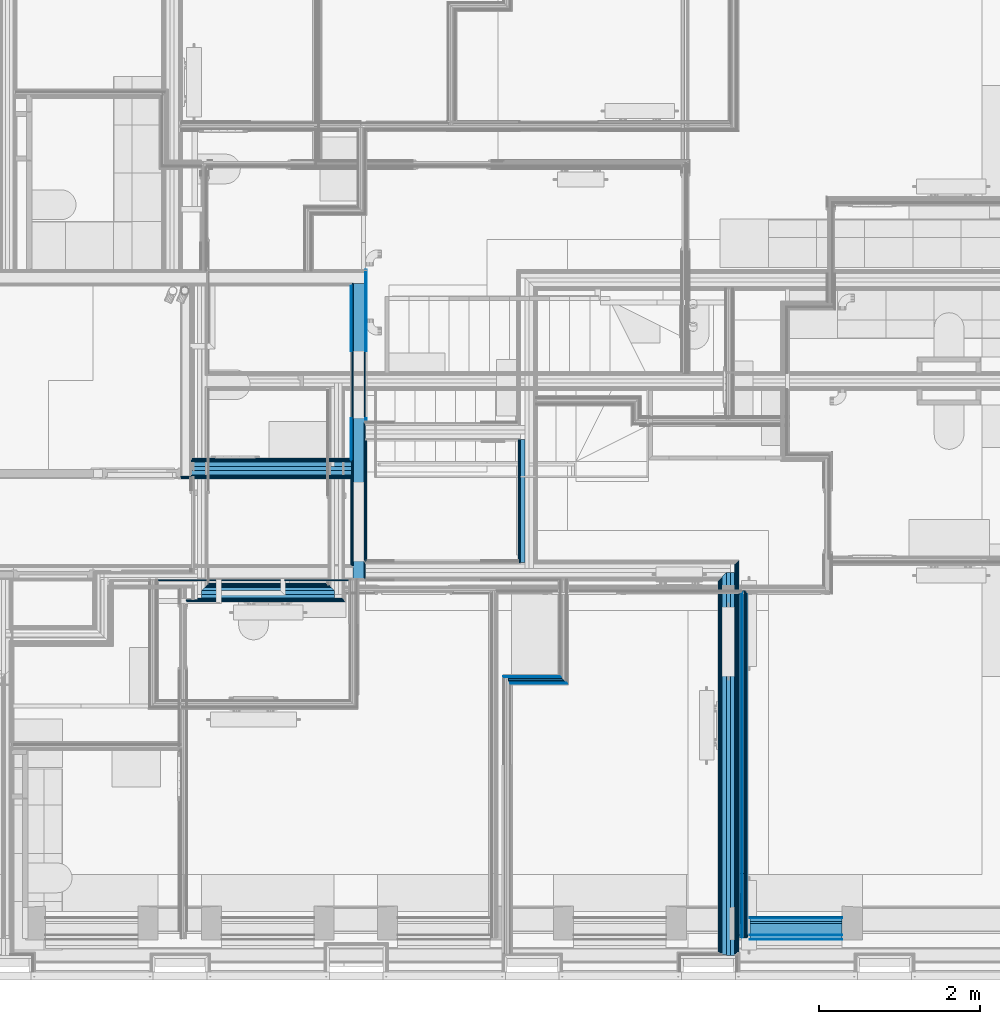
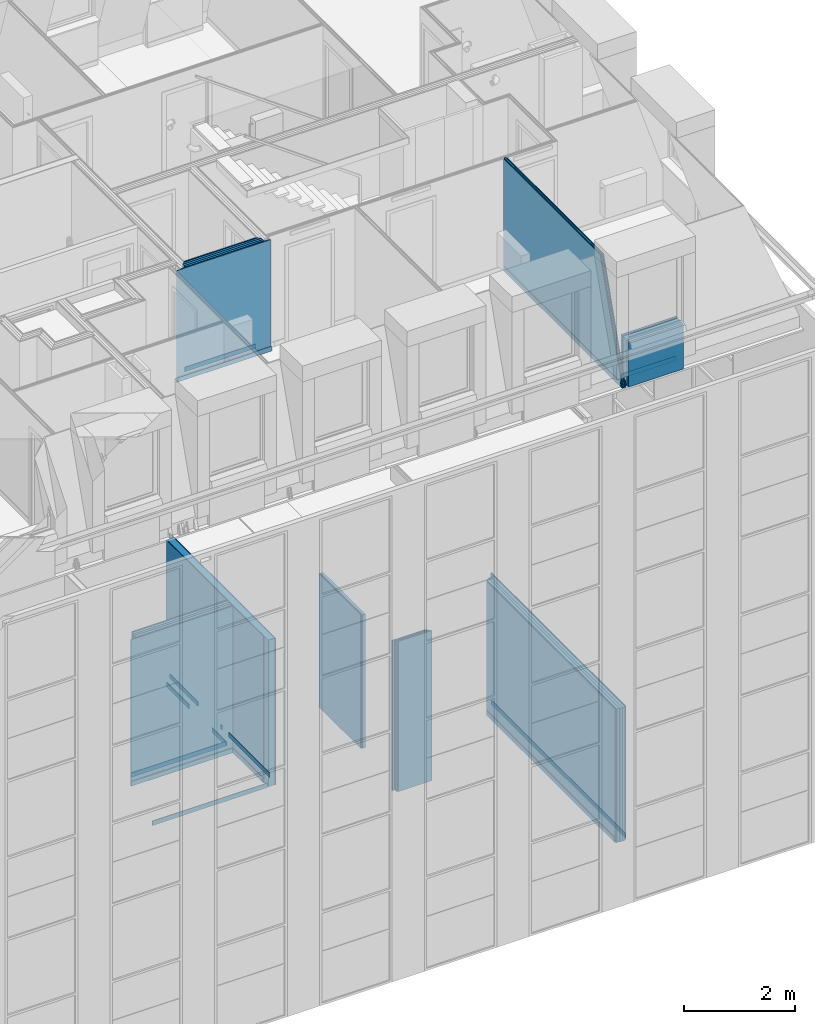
# One storey, part 37 of 169: 61 building element parts, 1 opening, 9 elements without a shape of their own.
"""IFC2X3 building model written with IfcOpenShell, lengths in metres."""

from ifc_helpers import new_model, entity, si_unit, converted_unit, derived_unit, money_unit, direction, frame, frame_2d, origin_with_axes, place, context, subcontext, project, spatial, polyline, rectangle, outline, extrude, clip, halfspace, material, type_object, element, aggregate, save


model = new_model("IFC2X3")

# Units and contexts
model_context = context("Model", 3, precision=1e-05, world=origin_with_axes(), true_north=direction((0.0, 1.0)))
body_context = subcontext(model_context, "Body", "Model", "MODEL_VIEW", scale=1.0)
ifc_project = project(units=[si_unit("LENGTHUNIT", "METRE"), si_unit("AREAUNIT", "SQUARE_METRE"), si_unit("VOLUMEUNIT", "CUBIC_METRE"), si_unit("ABSORBEDDOSEUNIT", "GRAY"), si_unit("AMOUNTOFSUBSTANCEUNIT", "MOLE"), si_unit("DOSEEQUIVALENTUNIT", "SIEVERT"), si_unit("ELECTRICCAPACITANCEUNIT", "FARAD"), si_unit("ELECTRICCHARGEUNIT", "COULOMB"), si_unit("ELECTRICCONDUCTANCEUNIT", "SIEMENS"), si_unit("ELECTRICCURRENTUNIT", "AMPERE"), si_unit("ELECTRICRESISTANCEUNIT", "OHM"), si_unit("ELECTRICVOLTAGEUNIT", "VOLT"), si_unit("ENERGYUNIT", "JOULE"), si_unit("FORCEUNIT", "NEWTON"), si_unit("FREQUENCYUNIT", "HERTZ"), si_unit("ILLUMINANCEUNIT", "LUX"), si_unit("INDUCTANCEUNIT", "HENRY"), si_unit("LUMINOUSFLUXUNIT", "LUMEN"), si_unit("LUMINOUSINTENSITYUNIT", "CANDELA"), si_unit("MAGNETICFLUXDENSITYUNIT", "TESLA"), si_unit("MAGNETICFLUXUNIT", "WEBER"), si_unit("MASSUNIT", "GRAM"), converted_unit("PLANEANGLEUNIT", "degree", entity("IfcReal", 0.0174532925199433), si_unit("PLANEANGLEUNIT", "RADIAN"), dimensions=[0, 0, 0, 0, 0, 0, 0]), si_unit("POWERUNIT", "WATT"), si_unit("PRESSUREUNIT", "PASCAL"), si_unit("RADIOACTIVITYUNIT", "BECQUEREL"), si_unit("SOLIDANGLEUNIT", "STERADIAN"), si_unit("THERMODYNAMICTEMPERATUREUNIT", "KELVIN"), si_unit("TIMEUNIT", "SECOND"), derived_unit("ACCELERATIONUNIT", [(si_unit("LENGTHUNIT", "METRE"), 1), (si_unit("TIMEUNIT", "SECOND"), -2)]), derived_unit("ANGULARVELOCITYUNIT", [(converted_unit("PLANEANGLEUNIT", "degree", entity("IfcReal", 0.0174532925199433), si_unit("PLANEANGLEUNIT", "RADIAN"), dimensions=[0, 0, 0, 0, 0, 0, 0]), 1), (si_unit("TIMEUNIT", "SECOND"), -1)]), derived_unit("CURVATUREUNIT", [(converted_unit("PLANEANGLEUNIT", "degree", entity("IfcReal", 0.0174532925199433), si_unit("PLANEANGLEUNIT", "RADIAN"), dimensions=[0, 0, 0, 0, 0, 0, 0]), 1), (si_unit("LENGTHUNIT", "METRE"), -1)]), derived_unit("DYNAMICVISCOSITYUNIT", [(si_unit("PRESSUREUNIT", "PASCAL"), 1), (si_unit("TIMEUNIT", "SECOND"), 1)]), derived_unit("HEATFLUXDENSITYUNIT", [(si_unit("POWERUNIT", "WATT"), 1), (si_unit("LENGTHUNIT", "METRE"), -2)]), derived_unit("HEATINGVALUEUNIT", [(si_unit("ENERGYUNIT", "JOULE"), 1), (si_unit("MASSUNIT", "GRAM"), -1)]), derived_unit("INTEGERCOUNTRATEUNIT", [(si_unit("TIMEUNIT", "SECOND"), -1)]), derived_unit("IONCONCENTRATIONUNIT", [(si_unit("MASSUNIT", "GRAM"), 1), (si_unit("VOLUMEUNIT", "CUBIC_METRE"), -1)]), derived_unit("ISOTHERMALMOISTURECAPACITYUNIT", [(si_unit("VOLUMEUNIT", "CUBIC_METRE"), 1), (si_unit("MASSUNIT", "GRAM"), -1)]), derived_unit("KINEMATICVISCOSITYUNIT", [(si_unit("AREAUNIT", "SQUARE_METRE"), 1), (si_unit("TIMEUNIT", "SECOND"), -1)]), derived_unit("LINEARFORCEUNIT", [(si_unit("FORCEUNIT", "NEWTON"), 1), (si_unit("LENGTHUNIT", "METRE"), -1)]), derived_unit("LINEARMOMENTUNIT", [(si_unit("FORCEUNIT", "NEWTON"), 1), (si_unit("LENGTHUNIT", "METRE"), -1)]), derived_unit("LINEARSTIFFNESSUNIT", [(si_unit("FORCEUNIT", "NEWTON"), 1), (si_unit("LENGTHUNIT", "METRE"), -1)]), derived_unit("LINEARVELOCITYUNIT", [(si_unit("LENGTHUNIT", "METRE"), 1), (si_unit("TIMEUNIT", "SECOND"), -1)]), derived_unit("LUMINOUSINTENSITYDISTRIBUTIONUNIT", [(si_unit("LUMINOUSINTENSITYUNIT", "CANDELA"), 1), (si_unit("LUMINOUSFLUXUNIT", "LUMEN"), -1)]), derived_unit("MASSDENSITYUNIT", [(si_unit("MASSUNIT", "GRAM"), 1), (si_unit("VOLUMEUNIT", "CUBIC_METRE"), -1)]), derived_unit("MASSFLOWRATEUNIT", [(si_unit("MASSUNIT", "GRAM"), 1), (si_unit("TIMEUNIT", "SECOND"), -1)]), derived_unit("MASSPERLENGTHUNIT", [(si_unit("MASSUNIT", "GRAM"), 1), (si_unit("LENGTHUNIT", "METRE"), -1)]), derived_unit("MODULUSOFELASTICITYUNIT", [(si_unit("FORCEUNIT", "NEWTON"), 1), (si_unit("AREAUNIT", "SQUARE_METRE"), -1)]), derived_unit("MODULUSOFLINEARSUBGRADEREACTIONUNIT", [(si_unit("FORCEUNIT", "NEWTON"), 1), (si_unit("LENGTHUNIT", "METRE"), -2)]), derived_unit("MODULUSOFROTATIONALSUBGRADEREACTIONUNIT", [(si_unit("FORCEUNIT", "NEWTON"), 1), (si_unit("LENGTHUNIT", "METRE"), 1)]), derived_unit("MODULUSOFSUBGRADEREACTIONUNIT", [(si_unit("FORCEUNIT", "NEWTON"), 1), (si_unit("VOLUMEUNIT", "CUBIC_METRE"), -1)]), derived_unit("MOISTUREDIFFUSIVITYUNIT", [(si_unit("VOLUMEUNIT", "CUBIC_METRE"), 1), (si_unit("TIMEUNIT", "SECOND"), -1)]), derived_unit("MOLECULARWEIGHTUNIT", [(si_unit("MASSUNIT", "GRAM"), 1), (si_unit("AMOUNTOFSUBSTANCEUNIT", "MOLE"), -1)]), derived_unit("PLANARFORCEUNIT", [(si_unit("FORCEUNIT", "NEWTON"), 1), (si_unit("LENGTHUNIT", "METRE"), -2)]), derived_unit("ROTATIONALFREQUENCYUNIT", [(si_unit("TIMEUNIT", "SECOND"), -1)]), derived_unit("ROTATIONALMASSUNIT", [(si_unit("MASSUNIT", "GRAM"), 1), (si_unit("LENGTHUNIT", "METRE"), 2)]), derived_unit("ROTATIONALSTIFFNESSUNIT", [(si_unit("FORCEUNIT", "NEWTON"), 1), (si_unit("LENGTHUNIT", "METRE"), 1), (converted_unit("PLANEANGLEUNIT", "degree", entity("IfcReal", 0.0174532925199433), si_unit("PLANEANGLEUNIT", "RADIAN"), dimensions=[0, 0, 0, 0, 0, 0, 0]), -1)]), derived_unit("SECTIONAREAINTEGRALUNIT", [(si_unit("LENGTHUNIT", "METRE"), 5)]), derived_unit("SECTIONMODULUSUNIT", [(si_unit("LENGTHUNIT", "METRE"), 3)]), derived_unit("SHEARMODULUSUNIT", [(si_unit("FORCEUNIT", "NEWTON"), 1), (si_unit("AREAUNIT", "SQUARE_METRE"), -1)]), derived_unit("SOUNDPOWERUNIT", [(si_unit("ENERGYUNIT", "JOULE"), 1), (si_unit("TIMEUNIT", "SECOND"), -1)]), derived_unit("SPECIFICHEATCAPACITYUNIT", [(si_unit("FORCEUNIT", "NEWTON"), 1), (si_unit("MASSUNIT", "GRAM"), -1), (si_unit("THERMODYNAMICTEMPERATUREUNIT", "KELVIN"), -1)]), derived_unit("TEMPERATUREGRADIENTUNIT", [(si_unit("THERMODYNAMICTEMPERATUREUNIT", "KELVIN"), 1), (si_unit("LENGTHUNIT", "METRE"), -1)]), derived_unit("THERMALADMITTANCEUNIT", [(si_unit("POWERUNIT", "WATT"), 1), (si_unit("AREAUNIT", "SQUARE_METRE"), -1), (si_unit("THERMODYNAMICTEMPERATUREUNIT", "KELVIN"), -1)]), derived_unit("THERMALCONDUCTANCEUNIT", [(si_unit("POWERUNIT", "WATT"), 1), (si_unit("LENGTHUNIT", "METRE"), -1), (si_unit("THERMODYNAMICTEMPERATUREUNIT", "KELVIN"), -1)]), derived_unit("THERMALEXPANSIONCOEFFICIENTUNIT", [(si_unit("THERMODYNAMICTEMPERATUREUNIT", "KELVIN"), -1)]), derived_unit("THERMALRESISTANCEUNIT", [(si_unit("AREAUNIT", "SQUARE_METRE"), 1), (si_unit("POWERUNIT", "WATT"), -1)]), derived_unit("THERMALTRANSMITTANCEUNIT", [(si_unit("POWERUNIT", "WATT"), 1), (si_unit("AREAUNIT", "SQUARE_METRE"), -1), (si_unit("THERMODYNAMICTEMPERATUREUNIT", "KELVIN"), -1)]), derived_unit("TORQUEUNIT", [(si_unit("FORCEUNIT", "NEWTON"), 1), (si_unit("LENGTHUNIT", "METRE"), 1)]), derived_unit("VAPORPERMEABILITYUNIT", [(si_unit("MASSUNIT", "GRAM"), 1), (si_unit("TIMEUNIT", "SECOND"), -1)]), derived_unit("VOLUMETRICFLOWRATEUNIT", [(si_unit("VOLUMEUNIT", "CUBIC_METRE"), 1), (si_unit("TIMEUNIT", "SECOND"), -1)]), derived_unit("WARPINGCONSTANTUNIT", [(si_unit("LENGTHUNIT", "METRE"), 6)]), derived_unit("WARPINGMOMENTUNIT", [(si_unit("FORCEUNIT", "NEWTON"), 1), (si_unit("LENGTHUNIT", "METRE"), 2)]), money_unit("GBP")], contexts=[model_context])

# Site, building, storey
site_placement = place(None, origin_with_axes())
site = spatial("IfcSite", under=ifc_project, at=site_placement, Name="Site", CompositionType="ELEMENT")
building_placement = place(site_placement, origin_with_axes())
building = spatial("IfcBuilding", under=site, at=building_placement, Name="Building01", CompositionType="ELEMENT")
storey_placement = place(building_placement, frame((0.0, 0.0, 5.15), z_axis=(0.0, 0.0, 1.0), x_axis=(1.0, 0.0, 0.0)))
storey = spatial("IfcBuildingStorey", under=building, at=storey_placement, Name="1F", CompositionType="ELEMENT", Elevation=5.15)

# Wall, building element parts
wall_type_1 = type_object("IfcWallType", Name="SHE_A-Walls_Type01c_Partywall_225mm_twin_tall", PredefinedType="NOTDEFINED")
wall_1_placement = place(storey_placement, frame((22.488, 5.068, 0.0), z_axis=(0.0, 0.0, 1.0), x_axis=(0.0, -1.0, 0.0)))
wall_1 = element("IfcWall", 1, at=wall_1_placement, inside=storey, type_object=wall_type_1, Name="1C", ObjectType="SHE_A-Walls_Type01c_Partywall_225mm_twin_tall")
ifc_material_1 = material(Name="A_BSUK_Walls_Timber")
placement_1 = place(wall_1_placement, origin_with_axes())
building_element_part_1 = element("IfcBuildingElementPart", 2, at=placement_1, material=ifc_material_1, Name="1", context=body_context, shape_type="SweptSolid", body=[
    extrude(outline(polyline([(4.72, -0.088), (0.088, -0.088), (0.103, -0.103), (4.72, -0.103), (4.72, -0.088)])), frame((0.0, 0.0, 0.015), z_axis=(0.0, 0.0, 1.0), x_axis=(1.0, 0.0, 0.0)), (0.0, 0.0, 1.0), 0.1),
])
ifc_material_2 = material(Name="A_BSUK_WallInternal_Finishes_Plasterboard")
building_element_part_2 = element("IfcBuildingElementPart", 3, at=placement_1, material=ifc_material_2, Name="2", context=body_context, shape_type="SweptSolid", body=[
    extrude(outline(polyline([(4.735, -0.073), (0.073, -0.073), (0.088, -0.088), (4.735, -0.088), (4.735, -0.073)])), origin_with_axes(), (0.0, 0.0, 1.0), 2.95),
])
building_element_part_3 = element("IfcBuildingElementPart", 4, at=placement_1, material=ifc_material_2, Name="3", context=body_context, shape_type="SweptSolid", body=[
    extrude(outline(polyline([(4.75, -0.058), (0.058, -0.058), (0.073, -0.073), (4.75, -0.073), (4.75, -0.058)])), origin_with_axes(), (0.0, 0.0, 1.0), 2.95),
])
ifc_material_3 = material(Name="Air Cavity")
building_element_part_4 = element("IfcBuildingElementPart", 5, at=placement_1, material=ifc_material_3, Name="4", context=body_context, shape_type="SweptSolid", body=[
    extrude(outline(polyline([(4.75, 0.0), (0.0, 0.0), (0.058, -0.058), (4.75, -0.058), (4.75, 0.0)])), origin_with_axes(), (0.0, 0.0, 1.0), 2.95),
])
ifc_material_4 = material(Name="A_BSUK_Insulation")
building_element_part_5 = element("IfcBuildingElementPart", 6, at=placement_1, material=ifc_material_4, Name="5", context=body_context, shape_type="SweptSolid", body=[
    extrude(rectangle(XDim=4.762, YDim=0.05, at=frame_2d((2.381, 0.025), x_axis=(-1.0, 0.0))), origin_with_axes(), (0.0, 0.0, 1.0), 2.95),
])
building_element_part_6 = element("IfcBuildingElementPart", 7, at=placement_1, material=ifc_material_3, Name="6", context=body_context, shape_type="SweptSolid", body=[
    extrude(rectangle(XDim=4.762, YDim=0.057, at=frame_2d((2.381, 0.0785), x_axis=(-1.0, 0.0))), origin_with_axes(), (0.0, 0.0, 1.0), 2.95),
])
building_element_part_7 = element("IfcBuildingElementPart", 8, at=placement_1, material=ifc_material_2, Name="7", context=body_context, shape_type="SweptSolid", body=[
    extrude(outline(polyline([(4.75, 0.122), (-0.122, 0.122), (-0.107, 0.107), (4.75, 0.107), (4.75, 0.122)])), origin_with_axes(), (0.0, 0.0, 1.0), 2.95),
])
building_element_part_8 = element("IfcBuildingElementPart", 9, at=placement_1, material=ifc_material_2, Name="8", context=body_context, shape_type="SweptSolid", body=[
    extrude(outline(polyline([(4.735, 0.137), (-0.137, 0.137), (-0.122, 0.122), (4.735, 0.122), (4.735, 0.137)])), origin_with_axes(), (0.0, 0.0, 1.0), 2.95),
])
building_element_part_9 = element("IfcBuildingElementPart", 10, at=placement_1, material=ifc_material_1, Name="9", context=body_context, shape_type="SweptSolid", body=[
    extrude(outline(polyline([(4.72, 0.152), (-0.152, 0.152), (-0.137, 0.137), (4.72, 0.137), (4.72, 0.152)])), frame((0.0, 0.0, 0.015), z_axis=(0.0, 0.0, 1.0), x_axis=(1.0, 0.0, 0.0)), (0.0, 0.0, 1.0), 0.1),
])
aggregate(wall_1, [building_element_part_1, building_element_part_2, building_element_part_3, building_element_part_4, building_element_part_5, building_element_part_6, building_element_part_7, building_element_part_8, building_element_part_9])

wall_type_2 = type_object("IfcWallType", Name="SHE_A-Walls_Type05a_Partition_95mm_tall", PredefinedType="NOTDEFINED")
wall_2_placement = place(storey_placement, frame((19.775, 3.72, 0.0), z_axis=(0.0, 0.0, 1.0), x_axis=(1.0, 0.0, 0.0)))
wall_2 = element("IfcWall", 11, at=wall_2_placement, inside=storey, type_object=wall_type_2, Name="5A", ObjectType="SHE_A-Walls_Type05a_Partition_95mm_tall")
placement_2 = place(wall_2_placement, origin_with_axes())
building_element_part_10 = element("IfcBuildingElementPart", 12, at=placement_2, material=ifc_material_2, Name="2", context=body_context, shape_type="SweptSolid", body=[
    extrude(outline(polyline([(0.723, -0.023), (0.023, -0.023), (0.035, -0.035), (0.735, -0.035), (0.723, -0.023)])), origin_with_axes(), (0.0, 0.0, 1.0), 3.32),
])
building_element_part_11 = element("IfcBuildingElementPart", 13, at=placement_2, material=ifc_material_3, Name="3", context=body_context, shape_type="SweptSolid", body=[
    extrude(outline(polyline([(0.7, 0.0), (0.0, 0.0), (0.023, -0.023), (0.723, -0.023), (0.7, 0.0)])), origin_with_axes(), (0.0, 0.0, 1.0), 3.32),
])
building_element_part_12 = element("IfcBuildingElementPart", 14, at=placement_2, material=ifc_material_4, Name="4", context=body_context, shape_type="SweptSolid", body=[
    extrude(outline(polyline([(0.675, 0.025), (0.0, 0.025), (0.0, 0.0), (0.7, 0.0), (0.675, 0.025)])), origin_with_axes(), (0.0, 0.0, 1.0), 3.32),
])
building_element_part_13 = element("IfcBuildingElementPart", 15, at=placement_2, material=ifc_material_3, Name="5", context=body_context, shape_type="SweptSolid", body=[
    extrude(outline(polyline([(0.652, 0.048), (0.0, 0.048), (0.0, 0.025), (0.675, 0.025), (0.652, 0.048)])), origin_with_axes(), (0.0, 0.0, 1.0), 3.32),
])
building_element_part_14 = element("IfcBuildingElementPart", 16, at=placement_2, material=ifc_material_2, Name="6", context=body_context, shape_type="SweptSolid", body=[
    extrude(outline(polyline([(0.64, 0.06), (-0.06, 0.06), (-0.048, 0.048), (0.652, 0.048), (0.64, 0.06)])), origin_with_axes(), (0.0, 0.0, 1.0), 3.32),
])
aggregate(wall_2, [building_element_part_10, building_element_part_11, building_element_part_12, building_element_part_13, building_element_part_14])

wall_3_placement = place(storey_placement, frame((17.83, 6.337, 0.0), z_axis=(0.0, 0.0, 1.0), x_axis=(-1.0, 0.0, 0.0)))
wall_3 = element("IfcWall", 17, at=wall_3_placement, inside=storey, type_object=wall_type_1, Name="1C", ObjectType="SHE_A-Walls_Type01c_Partywall_225mm_twin_tall")
placement_3 = place(wall_3_placement, origin_with_axes())
building_element_part_15 = element("IfcBuildingElementPart", 18, at=placement_3, material=ifc_material_1, Name="1", context=body_context, shape_type="SweptSolid", body=[
    extrude(rectangle(XDim=1.97, YDim=0.015, at=frame_2d((1.0, -0.1455), x_axis=(-1.0, 0.0))), frame((0.0, 0.0, 0.015), z_axis=(0.0, 0.0, 1.0), x_axis=(1.0, 0.0, 0.0)), (0.0, 0.0, 1.0), 0.1),
])
building_element_part_16 = element("IfcBuildingElementPart", 19, at=placement_3, material=ifc_material_2, Name="2", context=body_context, shape_type="SweptSolid", body=[
    extrude(outline(polyline([(2.0, -0.123), (-0.015, -0.123), (-0.015, -0.138), (1.985, -0.138), (2.0, -0.123)])), origin_with_axes(), (0.0, 0.0, 1.0), 3.24),
])
building_element_part_17 = element("IfcBuildingElementPart", 20, at=placement_3, material=ifc_material_2, Name="3", context=body_context, shape_type="SweptSolid", body=[
    extrude(rectangle(XDim=2.0, YDim=0.015, at=frame_2d((1.0, -0.1155), x_axis=(-1.0, 0.0))), origin_with_axes(), (0.0, 0.0, 1.0), 3.24),
])
building_element_part_18 = element("IfcBuildingElementPart", 21, at=placement_3, material=ifc_material_3, Name="4", context=body_context, shape_type="SweptSolid", body=[
    extrude(rectangle(XDim=2.0, YDim=0.058, at=frame_2d((1.0, -0.079), x_axis=(-1.0, 0.0))), origin_with_axes(), (0.0, 0.0, 1.0), 3.24),
])
building_element_part_19 = element("IfcBuildingElementPart", 22, at=placement_3, material=ifc_material_4, Name="5", context=body_context, shape_type="SweptSolid", body=[
    extrude(rectangle(XDim=2.0, YDim=0.05, at=frame_2d((1.0, -0.025), x_axis=(-1.0, 0.0))), origin_with_axes(), (0.0, 0.0, 1.0), 3.24),
])
building_element_part_20 = element("IfcBuildingElementPart", 23, at=placement_3, material=ifc_material_3, Name="6", context=body_context, shape_type="SweptSolid", body=[
    extrude(rectangle(XDim=2.0, YDim=0.057, at=frame_2d((1.0, 0.0285), x_axis=(-1.0, 0.0))), origin_with_axes(), (0.0, 0.0, 1.0), 3.24),
])
building_element_part_21 = element("IfcBuildingElementPart", 24, at=placement_3, material=ifc_material_2, Name="7", context=body_context, shape_type="SweptSolid", body=[
    extrude(rectangle(XDim=2.0, YDim=0.015, at=frame_2d((1.0, 0.0645), x_axis=(-1.0, 0.0))), origin_with_axes(), (0.0, 0.0, 1.0), 3.24),
])
building_element_part_22 = element("IfcBuildingElementPart", 25, at=placement_3, material=ifc_material_2, Name="8", context=body_context, shape_type="SweptSolid", body=[
    extrude(rectangle(XDim=2.13, YDim=0.015, at=frame_2d((1.065, 0.0795), x_axis=(-1.0, 0.0))), origin_with_axes(), (0.0, 0.0, 1.0), 3.24),
])
building_element_part_23 = element("IfcBuildingElementPart", 26, at=placement_3, material=ifc_material_1, Name="9", context=body_context, shape_type="SweptSolid", body=[
    extrude(rectangle(XDim=2.115, YDim=0.015, at=frame_2d((1.0725, 0.0945), x_axis=(-1.0, 0.0))), frame((0.0, 0.0, 0.015), z_axis=(0.0, 0.0, 1.0), x_axis=(1.0, 0.0, 0.0)), (0.0, 0.0, 1.0), 0.1),
])
aggregate(wall_3, [building_element_part_15, building_element_part_16, building_element_part_17, building_element_part_18, building_element_part_19, building_element_part_20, building_element_part_21, building_element_part_22, building_element_part_23])

# Wall, opening, building element parts
wall_type_3 = type_object("IfcWallType", Name="SHE_A-Walls_Type03a_BlockworkWall_170mm", PredefinedType="NOTDEFINED")
wall_4_placement = place(storey_placement, frame((17.845, 8.665, 0.0), z_axis=(0.0, 0.0, 1.0), x_axis=(0.0, -1.0, 0.0)))
wall_4 = element("IfcWall", 27, at=wall_4_placement, inside=storey, type_object=wall_type_3, Name="4B", ObjectType="SHE_A-Walls_Type03a_BlockworkWall_170mm")
opening_placement = place(wall_4_placement, frame((0.84412, 0.17, 0.0), z_axis=(0.0, 0.0, 1.0), x_axis=(1.0, 0.0, 0.0)))
element("IfcOpeningElement", 28, at=opening_placement, cuts=wall_4, Name="Opening", ObjectType="Opening", context=body_context, shape_type="SweptSolid", body=[
    extrude(rectangle(XDim=2.142, YDim=0.834, at=frame_2d((0.417, 1.071), x_axis=(0.0, -1.0))), frame((0.0, 0.0, 0.0), z_axis=(0.0, -1.0, 0.0), x_axis=(1.0, 0.0, 0.0)), (0.0, 0.0, 1.0), 0.2),
])
placement_4 = place(wall_4_placement, origin_with_axes())
building_element_part_24 = element("IfcBuildingElementPart", 29, at=placement_4, material=ifc_material_1, Name="1", context=body_context, shape_type="SweptSolid", body=[
    extrude(outline(polyline([(2.205, -0.015), (0.03, -0.015), (0.03, -0.03), (2.19, -0.03), (2.205, -0.015)])), frame((0.0, 0.0, 0.015), z_axis=(0.0, 0.0, 1.0), x_axis=(1.0, 0.0, 0.0)), (0.0, 0.0, 1.0), 0.1),
])
building_element_part_25 = element("IfcBuildingElementPart", 30, at=placement_4, material=ifc_material_1, Name="2", context=body_context, shape_type="SweptSolid", body=[
    extrude(rectangle(XDim=1.085, YDim=0.015, at=frame_2d((2.9575, -0.0225), x_axis=(-1.0, 0.0))), frame((0.0, 0.0, 0.015), z_axis=(0.0, 0.0, 1.0), x_axis=(1.0, 0.0, 0.0)), (0.0, 0.0, 1.0), 0.1),
])
building_element_part_26 = element("IfcBuildingElementPart", 31, at=placement_4, material=ifc_material_2, Name="3", context=body_context, shape_type="SweptSolid", body=[
    extrude(outline(polyline([(2.205, 0.0), (0.0, 0.0), (0.0, -0.015), (2.19, -0.015), (2.205, 0.0)])), origin_with_axes(), (0.0, 0.0, 1.0), 3.24),
])
building_element_part_27 = element("IfcBuildingElementPart", 32, at=placement_4, material=ifc_material_2, Name="4", context=body_context, shape_type="SweptSolid", body=[
    extrude(outline(polyline([(3.515, 0.0), (2.19, 0.0), (2.205, -0.015), (3.515, -0.015), (3.515, 0.0)])), origin_with_axes(), (0.0, 0.0, 1.0), 3.24),
])
ifc_material_5 = material(Name="A_BSUK_WallsInternal_Block")
building_element_part_28 = element("IfcBuildingElementPart", 33, at=placement_4, material=ifc_material_5, Name="5", context=body_context, shape_type="SweptSolid", body=[
    extrude(rectangle(XDim=3.67, YDim=0.14, at=frame_2d((1.835, 0.07), x_axis=(-1.0, 0.0))), origin_with_axes(), (0.0, 0.0, 1.0), 3.24),
])
ifc_material_6 = material(Name="A_BSUK_WallInternal_Finishes_Plaster")
building_element_part_29 = element("IfcBuildingElementPart", 34, at=placement_4, material=ifc_material_6, Name="6", context=body_context, shape_type="SweptSolid", body=[
    extrude(rectangle(XDim=3.84, YDim=0.015, at=frame_2d((1.765, 0.1475), x_axis=(-1.0, 0.0))), origin_with_axes(), (0.0, 0.0, 1.0), 3.24),
])
building_element_part_30 = element("IfcBuildingElementPart", 35, at=placement_4, material=ifc_material_1, Name="7", context=body_context, shape_type="SweptSolid", body=[
    extrude(rectangle(XDim=1.89, YDim=0.015, at=frame_2d((0.775, 0.1625), x_axis=(-1.0, 0.0))), frame((0.0, 0.0, 0.015), z_axis=(0.0, 0.0, 1.0), x_axis=(1.0, 0.0, 0.0)), (0.0, 0.0, 1.0), 0.1),
])
building_element_part_31 = element("IfcBuildingElementPart", 36, at=placement_4, material=ifc_material_1, Name="8", context=body_context, shape_type="SweptSolid", body=[
    extrude(outline(polyline([(3.445, 0.17), (1.975, 0.17), (1.975, 0.155), (3.46, 0.155), (3.445, 0.17)])), frame((0.0, 0.0, 0.015), z_axis=(0.0, 0.0, 1.0), x_axis=(1.0, 0.0, 0.0)), (0.0, 0.0, 1.0), 0.1),
])
building_element_part_32 = element("IfcBuildingElementPart", 37, at=placement_4, material=ifc_material_1, Name="9", context=body_context, shape_type="SweptSolid", body=[
    extrude(outline(polyline([(3.445, 0.17), (1.96, 0.17), (1.96, 0.155), (3.46, 0.155), (3.445, 0.17)])), frame((0.0, 0.0, 0.015), z_axis=(0.0, 0.0, 1.0), x_axis=(1.0, 0.0, 0.0)), (0.0, 0.0, 1.0), 0.1),
])
building_element_part_33 = element("IfcBuildingElementPart", 38, at=placement_4, material=ifc_material_1, Name="10", context=body_context, shape_type="SweptSolid", body=[
    extrude(outline(polyline([(3.445, 0.17), (1.96, 0.17), (1.96, 0.155), (3.46, 0.155), (3.445, 0.17)])), frame((0.0, 0.0, 0.015), z_axis=(0.0, 0.0, 1.0), x_axis=(1.0, 0.0, 0.0)), (0.0, 0.0, 1.0), 0.1),
])
aggregate(wall_4, [building_element_part_24, building_element_part_25, building_element_part_26, building_element_part_27, building_element_part_28, building_element_part_29, building_element_part_30, building_element_part_31, building_element_part_32, building_element_part_33])

# Wall, building element parts
wall_5_placement = place(storey_placement, frame((19.985661, 8.732, 0.0), z_axis=(0.0, 0.0, 1.0), x_axis=(0.0, -1.0, 0.0)))
wall_5 = element("IfcWall", 39, at=wall_5_placement, inside=storey, type_object=wall_type_1, Name="1C", ObjectType="SHE_A-Walls_Type01c_Partywall_225mm_twin_tall")
placement_5 = place(wall_5_placement, origin_with_axes())
building_element_part_34 = element("IfcBuildingElementPart", 40, at=placement_5, material=ifc_material_2, Name="5", context=body_context, shape_type="SweptSolid", body=[
    extrude(rectangle(XDim=1.515, YDim=0.015, at=frame_2d((2.7695, -0.0805), x_axis=(-1.0, 0.0))), origin_with_axes(), (0.0, 0.0, 1.0), 2.95),
])
building_element_part_35 = element("IfcBuildingElementPart", 41, at=placement_5, material=ifc_material_2, Name="8", context=body_context, shape_type="SweptSolid", body=[
    extrude(rectangle(XDim=1.53, YDim=0.015, at=frame_2d((2.777, -0.0655), x_axis=(-1.0, 0.0))), origin_with_axes(), (0.0, 0.0, 1.0), 2.95),
])
building_element_part_36 = element("IfcBuildingElementPart", 42, at=placement_5, material=ifc_material_3, Name="9", context=body_context, shape_type="SweptSolid", body=[
    extrude(rectangle(XDim=1.53, YDim=0.058, at=frame_2d((2.777, -0.029), x_axis=(-1.0, 0.0))), origin_with_axes(), (0.0, 0.0, 1.0), 2.95),
])
aggregate(wall_5, [building_element_part_34, building_element_part_35, building_element_part_36])

# Wall, building element part
wall_6_placement = place(storey_placement, frame((9.215, 4.995, 0.0), z_axis=(0.0, 0.0, 1.0), x_axis=(1.0, 0.0, 0.0)))
wall_6 = element("IfcWall", 43, at=wall_6_placement, inside=storey, type_object=wall_type_3, Name="4B", ObjectType="SHE_A-Walls_Type03a_BlockworkWall_170mm")
building_element_part_37_placement = place(wall_6_placement, origin_with_axes())
building_element_part_37 = element("IfcBuildingElementPart", 44, at=building_element_part_37_placement, material=ifc_material_1, Name="5", context=body_context, shape_type="SweptSolid", body=[
    extrude(rectangle(XDim=2.4, YDim=0.015, at=frame_2d((7.3925, -0.0225), x_axis=(-1.0, 0.0))), frame((0.0, 0.0, 0.015), z_axis=(0.0, 0.0, 1.0), x_axis=(1.0, 0.0, 0.0)), (0.0, 0.0, 1.0), 0.1),
])
aggregate(wall_6, [building_element_part_37])

# Wall, building element parts
wall_type_4 = type_object("IfcWallType", Name="SHE_A-Walls_Type05b_Partition_80mm", PredefinedType="NOTDEFINED")
wall_7_placement = place(storey_placement, frame((22.687024, 4.844, 9.83), z_axis=(0.0, 0.0, 1.0), x_axis=(0.0, -1.0, 0.0)))
wall_7 = element("IfcWall", 45, at=wall_7_placement, inside=storey, type_object=wall_type_4, Name="5B", ObjectType="SHE_A-Walls_Type05b_Partition_80mm")
placement_6 = place(wall_7_placement, origin_with_axes())
building_element_part_38 = element("IfcBuildingElementPart", 46, at=placement_6, material=ifc_material_1, Name="1", context=body_context, shape_type="Clipping", body=[
    clip(extrude(rectangle(XDim=4.27327, YDim=0.015, at=frame_2d((2.178635, -0.0345), x_axis=(-1.0, 0.0))), frame((0.0, 0.0, 0.015), z_axis=(0.0, 0.0, 1.0), x_axis=(1.0, 0.0, 0.0)), (0.0, 0.0, 1.0), 0.1), halfspace(frame((3.907606, 0.0, 1.269658), z_axis=(-0.95105652, 0.0, -0.30901699), x_axis=(0.0, -1.0, 0.0)), True)),
])
building_element_part_39 = element("IfcBuildingElementPart", 47, at=placement_6, material=ifc_material_2, Name="2", context=body_context, shape_type="Clipping", body=[
    clip(extrude(rectangle(XDim=4.293143, YDim=0.015, at=frame_2d((2.173572, -0.0195), x_axis=(-1.0, 0.0))), origin_with_axes(), (0.0, 0.0, 1.0), 2.468), halfspace(frame((3.907606, 0.0, 1.269658), z_axis=(-0.95105652, 0.0, -0.30901699), x_axis=(0.0, -1.0, 0.0)), True)),
])
building_element_part_40 = element("IfcBuildingElementPart", 48, at=placement_6, material=ifc_material_3, Name="3", context=body_context, shape_type="Clipping", body=[
    clip(extrude(rectangle(XDim=4.293143, YDim=0.012, at=frame_2d((2.173572, -0.006), x_axis=(-1.0, 0.0))), origin_with_axes(), (0.0, 0.0, 1.0), 2.468), halfspace(frame((3.907606, 0.0, 1.269658), z_axis=(-0.95105652, 0.0, -0.30901699), x_axis=(0.0, -1.0, 0.0)), True)),
])
building_element_part_41 = element("IfcBuildingElementPart", 49, at=placement_6, material=ifc_material_4, Name="4", context=body_context, shape_type="Clipping", body=[
    clip(extrude(rectangle(XDim=4.320143, YDim=0.025, at=frame_2d((2.160072, 0.0125), x_axis=(-1.0, 0.0))), origin_with_axes(), (0.0, 0.0, 1.0), 2.468), halfspace(frame((3.907606, 0.0, 1.269658), z_axis=(-0.95105652, 0.0, -0.30901699), x_axis=(0.0, -1.0, 0.0)), True)),
])
building_element_part_42 = element("IfcBuildingElementPart", 50, at=placement_6, material=ifc_material_3, Name="5", context=body_context, shape_type="Clipping", body=[
    clip(extrude(rectangle(XDim=4.320143, YDim=0.013, at=frame_2d((2.160072, 0.0315), x_axis=(-1.0, 0.0))), origin_with_axes(), (0.0, 0.0, 1.0), 2.468), halfspace(frame((3.907606, 0.0, 1.269658), z_axis=(-0.95105652, 0.0, -0.30901699), x_axis=(0.0, -1.0, 0.0)), True)),
])
building_element_part_43 = element("IfcBuildingElementPart", 51, at=placement_6, material=ifc_material_2, Name="6", context=body_context, shape_type="Clipping", body=[
    clip(extrude(rectangle(XDim=4.308143, YDim=0.015, at=frame_2d((2.166072, 0.0455), x_axis=(-1.0, 0.0))), origin_with_axes(), (0.0, 0.0, 1.0), 2.468), halfspace(frame((3.907606, 0.0, 1.269658), z_axis=(-0.95105652, 0.0, -0.30901699), x_axis=(0.0, -1.0, 0.0)), True)),
])
building_element_part_44 = element("IfcBuildingElementPart", 52, at=placement_6, material=ifc_material_1, Name="7", context=body_context, shape_type="Clipping", body=[
    clip(extrude(rectangle(XDim=4.28827, YDim=0.015, at=frame_2d((2.171135, 0.0605), x_axis=(-1.0, 0.0))), frame((0.0, 0.0, 0.015), z_axis=(0.0, 0.0, 1.0), x_axis=(1.0, 0.0, 0.0)), (0.0, 0.0, 1.0), 0.1), halfspace(frame((3.907606, 0.0, 1.269658), z_axis=(-0.95105652, 0.0, -0.30901699), x_axis=(0.0, -1.0, 0.0)), True)),
])
aggregate(wall_7, [building_element_part_38, building_element_part_39, building_element_part_40, building_element_part_41, building_element_part_42, building_element_part_43, building_element_part_44])

wall_type_5 = type_object("IfcWallType", Name="SHE_A-Walls_Type06e_ExternalWallPenthouse_280mm", PredefinedType="NOTDEFINED")
wall_8_placement = place(storey_placement, frame((23.929976, 0.565, 9.83), z_axis=(0.0, 0.0, 1.0), x_axis=(-1.0, 0.0, 0.0)))
wall_8 = element("IfcWall", 53, at=wall_8_placement, inside=storey, type_object=wall_type_5, Name="6E", ObjectType="SHE_A-Walls_Type06e_ExternalWallPenthouse_280mm")
placement_7 = place(wall_8_placement, origin_with_axes())
building_element_part_45 = element("IfcBuildingElementPart", 54, at=placement_7, material=ifc_material_1, Name="1", context=body_context, shape_type="SweptSolid", body=[
    extrude(rectangle(XDim=1.149951, YDim=0.015, at=frame_2d((0.574976, -0.2225), x_axis=(-1.0, 0.0))), frame((0.0, 0.0, 0.015), z_axis=(0.0, 0.0, 1.0), x_axis=(1.0, 0.0, 0.0)), (0.0, 0.0, 1.0), 0.1),
])
building_element_part_46 = element("IfcBuildingElementPart", 55, at=placement_7, material=ifc_material_2, Name="2", context=body_context, shape_type="SweptSolid", body=[
    extrude(rectangle(XDim=1.149951, YDim=0.01, at=frame_2d((0.574976, -0.21), x_axis=(-1.0, 0.0))), origin_with_axes(), (0.0, 0.0, 1.0), 1.0),
])
building_element_part_47 = element("IfcBuildingElementPart", 56, at=placement_7, material=ifc_material_4, Name="3", context=body_context, shape_type="SweptSolid", body=[
    extrude(rectangle(XDim=1.149951, YDim=0.04, at=frame_2d((0.574976, -0.185), x_axis=(-1.0, 0.0))), origin_with_axes(), (0.0, 0.0, 1.0), 1.0),
])
building_element_part_48 = element("IfcBuildingElementPart", 57, at=placement_7, material=ifc_material_3, Name="4", context=body_context, shape_type="SweptSolid", body=[
    extrude(rectangle(XDim=1.149951, YDim=0.025, at=frame_2d((0.574976, -0.1525), x_axis=(-1.0, 0.0))), origin_with_axes(), (0.0, 0.0, 1.0), 1.0),
])
building_element_part_49 = element("IfcBuildingElementPart", 58, at=placement_7, material=ifc_material_4, Name="5", context=body_context, shape_type="SweptSolid", body=[
    extrude(rectangle(XDim=1.149951, YDim=0.14, at=frame_2d((0.574976, -0.07), x_axis=(-1.0, 0.0))), origin_with_axes(), (0.0, 0.0, 1.0), 1.0),
])
building_element_part_50 = element("IfcBuildingElementPart", 59, at=placement_7, material=ifc_material_1, Name="6", context=body_context, shape_type="SweptSolid", body=[
    extrude(rectangle(XDim=1.149951, YDim=0.01, at=frame_2d((0.574976, 0.005), x_axis=(-1.0, 0.0))), origin_with_axes(), (0.0, 0.0, 1.0), 1.0),
])
building_element_part_51 = element("IfcBuildingElementPart", 60, at=placement_7, material=ifc_material_3, Name="7", context=body_context, shape_type="SweptSolid", body=[
    extrude(rectangle(XDim=1.149951, YDim=0.05, at=frame_2d((0.574976, 0.035), x_axis=(-1.0, 0.0))), origin_with_axes(), (0.0, 0.0, 1.0), 1.0),
])
ifc_material_7 = material(Name="A_BSUK_WallInternal_Finishes_Metal")
building_element_part_52 = element("IfcBuildingElementPart", 61, at=placement_7, material=ifc_material_7, Name="8", context=body_context, shape_type="SweptSolid", body=[
    extrude(rectangle(XDim=1.149951, YDim=0.005, at=frame_2d((0.574976, 0.0625), x_axis=(-1.0, 0.0))), origin_with_axes(), (0.0, 0.0, 1.0), 1.0),
])
aggregate(wall_8, [building_element_part_45, building_element_part_46, building_element_part_47, building_element_part_48, building_element_part_49, building_element_part_50, building_element_part_51, building_element_part_52])

wall_type_6 = type_object("IfcWallType", Name="SHE_A-Walls_Type01d_Partywall_200mm_twin", PredefinedType="NOTDEFINED")
wall_9_placement = place(storey_placement, frame((17.61344, 4.842, 9.83), z_axis=(0.0, 0.0, 1.0), x_axis=(-1.0, 0.0, 0.0)))
wall_9 = element("IfcWall", 62, at=wall_9_placement, inside=storey, type_object=wall_type_6, Name="1D", ObjectType="SHE_A-Walls_Type01d_Partywall_200mm_twin")
placement_8 = place(wall_9_placement, origin_with_axes())
building_element_part_53 = element("IfcBuildingElementPart", 63, at=placement_8, material=ifc_material_1, Name="1", context=body_context, shape_type="SweptSolid", body=[
    extrude(outline(polyline([(1.56, -0.075), (0.075, -0.075), (0.09, -0.09), (1.56, -0.09), (1.56, -0.075)])), frame((0.0, 0.0, 0.015), z_axis=(0.0, 0.0, 1.0), x_axis=(1.0, 0.0, 0.0)), (0.0, 0.0, 1.0), 0.1),
])
building_element_part_54 = element("IfcBuildingElementPart", 64, at=placement_8, material=ifc_material_2, Name="2", context=body_context, shape_type="SweptSolid", body=[
    extrude(outline(polyline([(1.59, -0.06), (0.06, -0.06), (0.075, -0.075), (1.575, -0.075), (1.59, -0.06)])), origin_with_axes(), (0.0, 0.0, 1.0), 2.468),
])
building_element_part_55 = element("IfcBuildingElementPart", 65, at=placement_8, material=ifc_material_2, Name="3", context=body_context, shape_type="SweptSolid", body=[
    extrude(outline(polyline([(1.605, -0.045), (0.045, -0.045), (0.06, -0.06), (1.59, -0.06), (1.605, -0.045)])), origin_with_axes(), (0.0, 0.0, 1.0), 2.468),
])
building_element_part_56 = element("IfcBuildingElementPart", 66, at=placement_8, material=ifc_material_3, Name="4", context=body_context, shape_type="SweptSolid", body=[
    extrude(outline(polyline([(1.65, 0.0), (0.0, 0.0), (0.045, -0.045), (1.605, -0.045), (1.65, 0.0)])), origin_with_axes(), (0.0, 0.0, 1.0), 2.468),
])
building_element_part_57 = element("IfcBuildingElementPart", 67, at=placement_8, material=ifc_material_4, Name="5", context=body_context, shape_type="SweptSolid", body=[
    extrude(rectangle(XDim=1.65, YDim=0.05, at=frame_2d((0.825, 0.025), x_axis=(-1.0, 0.0))), origin_with_axes(), (0.0, 0.0, 1.0), 2.468),
])
building_element_part_58 = element("IfcBuildingElementPart", 68, at=placement_8, material=ifc_material_3, Name="6", context=body_context, shape_type="SweptSolid", body=[
    extrude(rectangle(XDim=1.65, YDim=0.045, at=frame_2d((0.825, 0.0725), x_axis=(-1.0, 0.0))), origin_with_axes(), (0.0, 0.0, 1.0), 2.468),
])
building_element_part_59 = element("IfcBuildingElementPart", 69, at=placement_8, material=ifc_material_2, Name="7", context=body_context, shape_type="SweptSolid", body=[
    extrude(outline(polyline([(1.745, 0.11), (-0.11, 0.11), (-0.095, 0.095), (1.745, 0.095), (1.745, 0.11)])), origin_with_axes(), (0.0, 0.0, 1.0), 2.468),
])
building_element_part_60 = element("IfcBuildingElementPart", 70, at=placement_8, material=ifc_material_2, Name="8", context=body_context, shape_type="SweptSolid", body=[
    extrude(outline(polyline([(1.84344, 0.125), (-0.125, 0.125), (-0.11, 0.11), (1.84344, 0.11), (1.84344, 0.125)])), origin_with_axes(), (0.0, 0.0, 1.0), 2.468),
])
building_element_part_61 = element("IfcBuildingElementPart", 71, at=placement_8, material=ifc_material_1, Name="9", context=body_context, shape_type="SweptSolid", body=[
    extrude(outline(polyline([(1.82844, 0.14), (-0.14, 0.14), (-0.125, 0.125), (1.84344, 0.125), (1.82844, 0.14)])), frame((0.0, 0.0, 0.015), z_axis=(0.0, 0.0, 1.0), x_axis=(1.0, 0.0, 0.0)), (0.0, 0.0, 1.0), 0.1),
])
aggregate(wall_9, [building_element_part_53, building_element_part_54, building_element_part_55, building_element_part_56, building_element_part_57, building_element_part_58, building_element_part_59, building_element_part_60, building_element_part_61])

save(model, "model.ifc")
